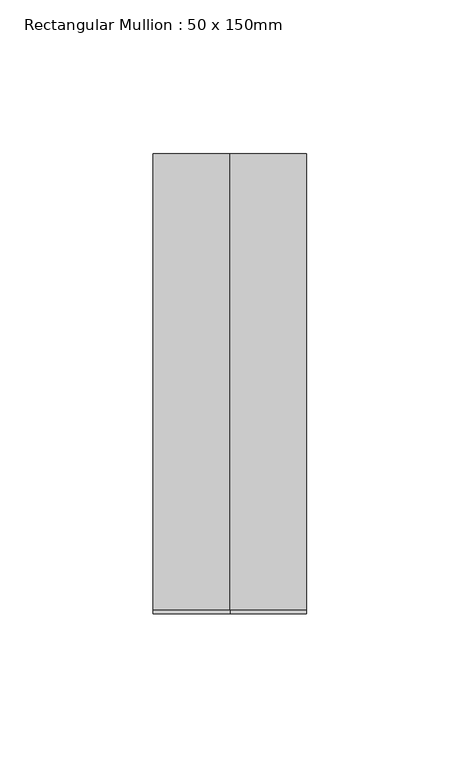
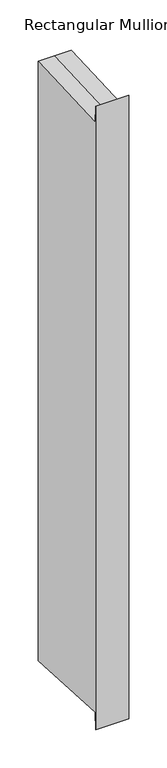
"""IFC4 building model written with IfcOpenShell, lengths in millimetres: member geometry, Rectangular Mullion : 50 x 150mm."""

from ifc_helpers import new_model, si_unit, origin, place, context, project, spatial, faceted_brep, source, transform, mapped, element, save


def rectangular_mullion_50_x_150mm_25f32059(model_context):
    return source(origin(), model_context, "Body", "Brep", [
        faceted_brep([(-25.0, 75.0, 3.7233876), (0.0, 75.0, 3.7233876), (25.0, 75.0, 3.7233876), (25.0, 75.0, -953.7233876), (0.0, 75.0, -953.7233876), (-25.0, 75.0, -953.7233876), (-25.0, -75.0, 23.1238267), (-25.0, -73.6561913, -3.7187304), (-25.0, -73.6561913, -946.2812696), (-25.0, -75.0, -973.1238267), (25.0, -75.0, 23.1238267), (0.0, -75.0, 23.1238267), (0.0, -75.0, -973.1238267), (25.0, -75.0, -973.1238267), (25.0, -73.6561913, -3.7187304), (25.0, -73.6561913, -946.2812696), (0.0, -73.6561913, -3.7187304), (0.0, -73.6561913, -946.2812696)], [[[0, 1, 2, 3, 4, 5]], [[6, 7, 0, 5, 8, 9]], [[10, 11, 6, 9, 12, 13]], [[2, 14, 10, 13, 15, 3]], [[2, 1, 16, 14]], [[1, 0, 7, 16]], [[7, 6, 11, 16]], [[11, 10, 14, 16]], [[3, 15, 17, 4]], [[15, 13, 12, 17]], [[12, 9, 8, 17]], [[8, 5, 4, 17]]]),
    ])


if __name__ == "__main__":
    model = new_model("IFC4")
    model_context = context("Model", 3, world=origin())
    ifc_project = project(units=[si_unit("LENGTHUNIT", "METRE", prefix="MILLI")], contexts=[model_context])
    site = spatial("IfcSite", under=ifc_project)
    building = spatial("IfcBuilding", under=site)
    placement = place(None, origin())
    rectangular_mullion_50_x_150mm_shape = rectangular_mullion_50_x_150mm_25f32059(model_context)
    element("IfcMember", 1, ObjectType="Rectangular Mullion : 50 x 150mm", at=placement, inside=building, context=model_context, shape_type="MappedRepresentation", body=[
        mapped(rectangular_mullion_50_x_150mm_shape, transform((0.0, 0.0, 0.0), x_axis=(1.0, 0.0, 0.0), y_axis=(0.0, 1.0, 0.0), z_axis=(0.0, 0.0, 1.0))),
    ])
    save(model, "model.ifc")
